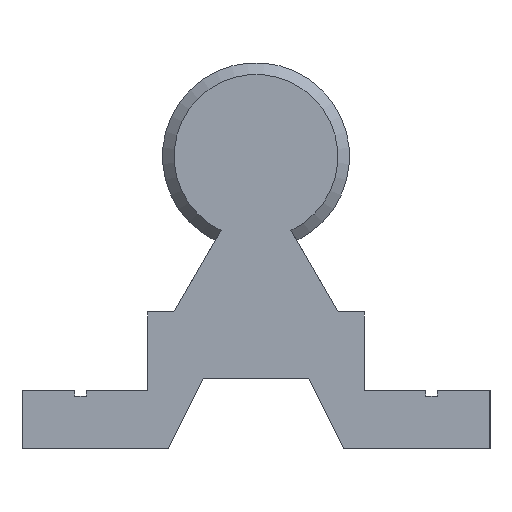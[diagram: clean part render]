
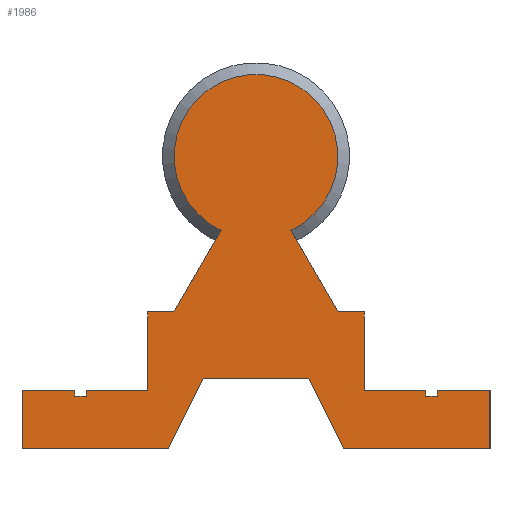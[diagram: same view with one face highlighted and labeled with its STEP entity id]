
A CAD part, left-side view. The second image highlights one B-rep face of the part: STEP entity #1986.
In plain terms, the highlighted planar face has unit normal (-1, 0, 0).
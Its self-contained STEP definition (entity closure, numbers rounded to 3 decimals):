
#44=LINE('',#2941,#208);
#45=LINE('',#2943,#209);
#46=LINE('',#2945,#210);
#47=LINE('',#2947,#211);
#48=LINE('',#2949,#212);
#49=LINE('',#2951,#213);
#50=LINE('',#2953,#214);
#51=LINE('',#2955,#215);
#52=LINE('',#2957,#216);
#53=LINE('',#2959,#217);
#54=LINE('',#2961,#218);
#55=LINE('',#2963,#219);
#56=LINE('',#2965,#220);
#57=LINE('',#2967,#221);
#58=LINE('',#2969,#222);
#59=LINE('',#2971,#223);
#60=LINE('',#2973,#224);
#61=LINE('',#2975,#225);
#62=LINE('',#2977,#226);
#63=LINE('',#2979,#227);
#64=LINE('',#2981,#228);
#65=LINE('',#2983,#229);
#66=LINE('',#2984,#230);
#208=VECTOR('',#2333,10.);
#209=VECTOR('',#2334,10.);
#210=VECTOR('',#2335,10.);
#211=VECTOR('',#2336,10.);
#212=VECTOR('',#2337,10.);
#213=VECTOR('',#2338,10.);
#214=VECTOR('',#2339,10.);
#215=VECTOR('',#2340,10.);
#216=VECTOR('',#2341,10.);
#217=VECTOR('',#2342,10.);
#218=VECTOR('',#2343,10.);
#219=VECTOR('',#2344,10.);
#220=VECTOR('',#2345,10.);
#221=VECTOR('',#2346,10.);
#222=VECTOR('',#2347,10.);
#223=VECTOR('',#2348,10.);
#224=VECTOR('',#2349,10.);
#225=VECTOR('',#2350,10.);
#226=VECTOR('',#2351,10.);
#227=VECTOR('',#2352,10.);
#228=VECTOR('',#2353,10.);
#229=VECTOR('',#2354,10.);
#230=VECTOR('',#2355,10.);
#372=PLANE('',#2108);
#440=FACE_OUTER_BOUND('',#540,.T.);
#540=EDGE_LOOP('',(#1335,#1336,#1337,#1338,#1339,#1340,#1341,#1342,#1343,
#1344,#1345,#1346,#1347,#1348,#1349,#1350,#1351,#1352,#1353,#1354,#1355,
#1356,#1357,#1358));
#653=CIRCLE('',#2106,7.);
#808=VERTEX_POINT('',#2928);
#809=VERTEX_POINT('',#2932);
#811=VERTEX_POINT('',#2940);
#812=VERTEX_POINT('',#2942);
#813=VERTEX_POINT('',#2944);
#814=VERTEX_POINT('',#2946);
#815=VERTEX_POINT('',#2948);
#816=VERTEX_POINT('',#2950);
#817=VERTEX_POINT('',#2952);
#818=VERTEX_POINT('',#2954);
#819=VERTEX_POINT('',#2956);
#820=VERTEX_POINT('',#2958);
#821=VERTEX_POINT('',#2960);
#822=VERTEX_POINT('',#2962);
#823=VERTEX_POINT('',#2964);
#824=VERTEX_POINT('',#2966);
#825=VERTEX_POINT('',#2968);
#826=VERTEX_POINT('',#2970);
#827=VERTEX_POINT('',#2972);
#828=VERTEX_POINT('',#2974);
#829=VERTEX_POINT('',#2976);
#830=VERTEX_POINT('',#2978);
#831=VERTEX_POINT('',#2980);
#832=VERTEX_POINT('',#2982);
#1014=EDGE_CURVE('',#808,#809,#653,.T.);
#1017=EDGE_CURVE('',#809,#811,#44,.T.);
#1018=EDGE_CURVE('',#812,#808,#45,.T.);
#1019=EDGE_CURVE('',#813,#812,#46,.T.);
#1020=EDGE_CURVE('',#814,#813,#47,.T.);
#1021=EDGE_CURVE('',#815,#814,#48,.T.);
#1022=EDGE_CURVE('',#816,#815,#49,.T.);
#1023=EDGE_CURVE('',#817,#816,#50,.T.);
#1024=EDGE_CURVE('',#818,#817,#51,.T.);
#1025=EDGE_CURVE('',#819,#818,#52,.T.);
#1026=EDGE_CURVE('',#820,#819,#53,.T.);
#1027=EDGE_CURVE('',#821,#820,#54,.T.);
#1028=EDGE_CURVE('',#822,#821,#55,.T.);
#1029=EDGE_CURVE('',#823,#822,#56,.T.);
#1030=EDGE_CURVE('',#824,#823,#57,.T.);
#1031=EDGE_CURVE('',#825,#824,#58,.T.);
#1032=EDGE_CURVE('',#826,#825,#59,.T.);
#1033=EDGE_CURVE('',#827,#826,#60,.T.);
#1034=EDGE_CURVE('',#828,#827,#61,.T.);
#1035=EDGE_CURVE('',#829,#828,#62,.T.);
#1036=EDGE_CURVE('',#830,#829,#63,.T.);
#1037=EDGE_CURVE('',#831,#830,#64,.T.);
#1038=EDGE_CURVE('',#832,#831,#65,.T.);
#1039=EDGE_CURVE('',#811,#832,#66,.T.);
#1335=ORIENTED_EDGE('',*,*,#1017,.F.);
#1336=ORIENTED_EDGE('',*,*,#1014,.F.);
#1337=ORIENTED_EDGE('',*,*,#1018,.F.);
#1338=ORIENTED_EDGE('',*,*,#1019,.F.);
#1339=ORIENTED_EDGE('',*,*,#1020,.F.);
#1340=ORIENTED_EDGE('',*,*,#1021,.F.);
#1341=ORIENTED_EDGE('',*,*,#1022,.F.);
#1342=ORIENTED_EDGE('',*,*,#1023,.F.);
#1343=ORIENTED_EDGE('',*,*,#1024,.F.);
#1344=ORIENTED_EDGE('',*,*,#1025,.F.);
#1345=ORIENTED_EDGE('',*,*,#1026,.F.);
#1346=ORIENTED_EDGE('',*,*,#1027,.F.);
#1347=ORIENTED_EDGE('',*,*,#1028,.F.);
#1348=ORIENTED_EDGE('',*,*,#1029,.F.);
#1349=ORIENTED_EDGE('',*,*,#1030,.F.);
#1350=ORIENTED_EDGE('',*,*,#1031,.F.);
#1351=ORIENTED_EDGE('',*,*,#1032,.F.);
#1352=ORIENTED_EDGE('',*,*,#1033,.F.);
#1353=ORIENTED_EDGE('',*,*,#1034,.F.);
#1354=ORIENTED_EDGE('',*,*,#1035,.F.);
#1355=ORIENTED_EDGE('',*,*,#1036,.F.);
#1356=ORIENTED_EDGE('',*,*,#1037,.F.);
#1357=ORIENTED_EDGE('',*,*,#1038,.F.);
#1358=ORIENTED_EDGE('',*,*,#1039,.F.);
#1986=ADVANCED_FACE('',(#440),#372,.F.);
#2106=AXIS2_PLACEMENT_3D('',#2933,#2327,#2328);
#2108=AXIS2_PLACEMENT_3D('',#2939,#2331,#2332);
#2327=DIRECTION('center_axis',(1.,0.,0.));
#2328=DIRECTION('ref_axis',(0.,1.,0.));
#2331=DIRECTION('center_axis',(1.,0.,0.));
#2332=DIRECTION('ref_axis',(0.,0.,-1.));
#2333=DIRECTION('',(0.,-0.5,-0.866));
#2334=DIRECTION('',(0.,-0.5,0.866));
#2335=DIRECTION('',(0.,-1.,0.));
#2336=DIRECTION('',(0.,0.,1.));
#2337=DIRECTION('',(0.,-1.,0.));
#2338=DIRECTION('',(0.,0.,1.));
#2339=DIRECTION('',(0.,-1.,0.));
#2340=DIRECTION('',(0.,0.,-1.));
#2341=DIRECTION('',(0.,-1.,0.));
#2342=DIRECTION('',(0.,0.,1.));
#2343=DIRECTION('',(0.,1.,0.));
#2344=DIRECTION('',(0.,0.447,-0.894));
#2345=DIRECTION('',(0.,1.,0.));
#2346=DIRECTION('',(0.,0.447,0.894));
#2347=DIRECTION('',(0.,1.,0.));
#2348=DIRECTION('',(0.,0.,-1.));
#2349=DIRECTION('',(0.,-1.,0.));
#2350=DIRECTION('',(0.,0.,1.));
#2351=DIRECTION('',(0.,-1.,0.));
#2352=DIRECTION('',(0.,0.,-1.));
#2353=DIRECTION('',(0.,-1.,0.));
#2354=DIRECTION('',(0.,0.,-1.));
#2355=DIRECTION('',(0.,-1.,0.));
#2928=CARTESIAN_POINT('',(0.,2.986,18.669));
#2932=CARTESIAN_POINT('',(0.,-2.986,18.669));
#2933=CARTESIAN_POINT('Origin',(0.,0.,25.));
#2939=CARTESIAN_POINT('Origin',(0.,0.,25.));
#2940=CARTESIAN_POINT('',(0.,-7.009,11.7));
#2941=CARTESIAN_POINT('',(0.,-1.492,21.255));
#2942=CARTESIAN_POINT('',(0.,7.009,11.7));
#2943=CARTESIAN_POINT('',(0.,3.253,18.205));
#2944=CARTESIAN_POINT('',(0.,9.25,11.7));
#2945=CARTESIAN_POINT('',(0.,9.25,11.7));
#2946=CARTESIAN_POINT('',(0.,9.25,5.));
#2947=CARTESIAN_POINT('',(0.,9.25,5.));
#2948=CARTESIAN_POINT('',(0.,14.5,5.));
#2949=CARTESIAN_POINT('',(0.,14.5,5.));
#2950=CARTESIAN_POINT('',(0.,14.5,4.5));
#2951=CARTESIAN_POINT('',(0.,14.5,4.5));
#2952=CARTESIAN_POINT('',(0.,15.5,4.5));
#2953=CARTESIAN_POINT('',(0.,15.5,4.5));
#2954=CARTESIAN_POINT('',(0.,15.5,5.));
#2955=CARTESIAN_POINT('',(0.,15.5,5.));
#2956=CARTESIAN_POINT('',(0.,20.,5.));
#2957=CARTESIAN_POINT('',(0.,20.,5.));
#2958=CARTESIAN_POINT('',(0.,20.,0.));
#2959=CARTESIAN_POINT('',(0.,20.,0.));
#2960=CARTESIAN_POINT('',(0.,7.5,0.));
#2961=CARTESIAN_POINT('',(0.,7.5,0.));
#2962=CARTESIAN_POINT('',(0.,4.5,6.));
#2963=CARTESIAN_POINT('',(0.,4.5,6.));
#2964=CARTESIAN_POINT('',(0.,-4.5,6.));
#2965=CARTESIAN_POINT('',(0.,-4.5,6.));
#2966=CARTESIAN_POINT('',(0.,-7.5,0.));
#2967=CARTESIAN_POINT('',(0.,-7.5,0.));
#2968=CARTESIAN_POINT('',(0.,-20.,0.));
#2969=CARTESIAN_POINT('',(0.,-20.,0.));
#2970=CARTESIAN_POINT('',(0.,-20.,5.));
#2971=CARTESIAN_POINT('',(0.,-20.,5.));
#2972=CARTESIAN_POINT('',(0.,-15.5,5.));
#2973=CARTESIAN_POINT('',(0.,-15.5,5.));
#2974=CARTESIAN_POINT('',(0.,-15.5,4.5));
#2975=CARTESIAN_POINT('',(0.,-15.5,4.5));
#2976=CARTESIAN_POINT('',(0.,-14.5,4.5));
#2977=CARTESIAN_POINT('',(0.,-14.5,4.5));
#2978=CARTESIAN_POINT('',(0.,-14.5,5.));
#2979=CARTESIAN_POINT('',(0.,-14.5,5.));
#2980=CARTESIAN_POINT('',(0.,-9.25,5.));
#2981=CARTESIAN_POINT('',(0.,-9.25,5.));
#2982=CARTESIAN_POINT('',(0.,-9.25,11.7));
#2983=CARTESIAN_POINT('',(0.,-9.25,11.7));
#2984=CARTESIAN_POINT('',(0.,-7.009,11.7));
